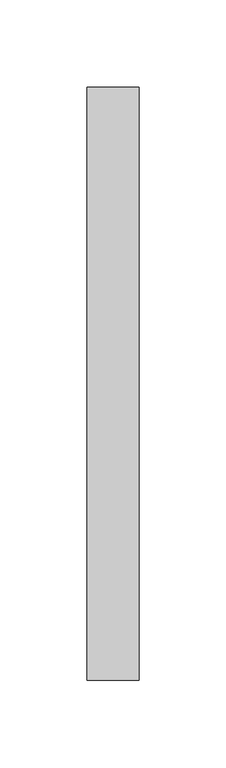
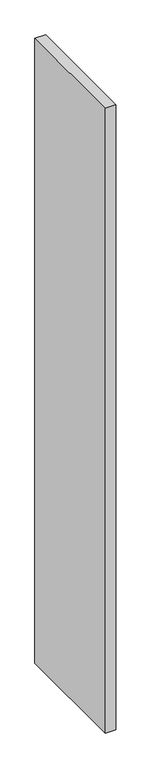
"""IFC4 building model written with IfcOpenShell, lengths in millimetres: furniture geometry, Divisoria_Lateral Fechada : Divisoria_Lateral Fechada_130x180."""

from ifc_helpers import new_model, si_unit, frame, origin, place, context, project, spatial, polyline, outline, extrude, source, transform, mapped, element, save


def furniture_15f8163c(model_context):
    return source(origin(), model_context, "Body", "SweptSolid", [
        extrude(outline(polyline([(59.7003264, 50.0), (59.7003264, -291.0), (29.7003264, -291.0), (29.7003264, 50.0), (59.7003264, 50.0)])), frame((0.0, 0.0, 50.0), z_axis=(0.0, 0.0, 1.0), x_axis=(1.0, 0.0, 0.0)), (0.0, 0.0, 1.0), 1850.0),
    ])


if __name__ == "__main__":
    model = new_model("IFC4")
    model_context = context("Model", 3, world=origin())
    ifc_project = project(units=[si_unit("LENGTHUNIT", "METRE", prefix="MILLI")], contexts=[model_context])
    site = spatial("IfcSite", under=ifc_project)
    building = spatial("IfcBuilding", under=site)
    placement = place(None, origin())
    furniture_shape = furniture_15f8163c(model_context)
    element("IfcFurniture", 1, ObjectType="Divisoria_Lateral Fechada : Divisoria_Lateral Fechada_130x180", at=placement, inside=building, context=model_context, shape_type="MappedRepresentation", body=[
        mapped(furniture_shape, transform((0.0, 0.0, 0.0), x_axis=(1.0, 0.0, 0.0), y_axis=(0.0, 1.0, 0.0), z_axis=(0.0, 0.0, 1.0))),
    ])
    save(model, "model.ifc")
